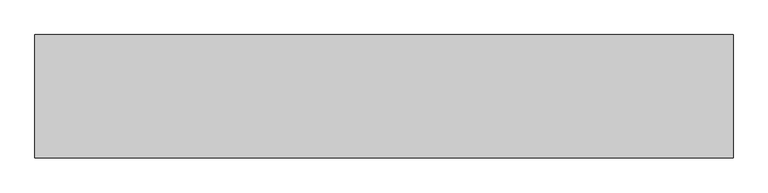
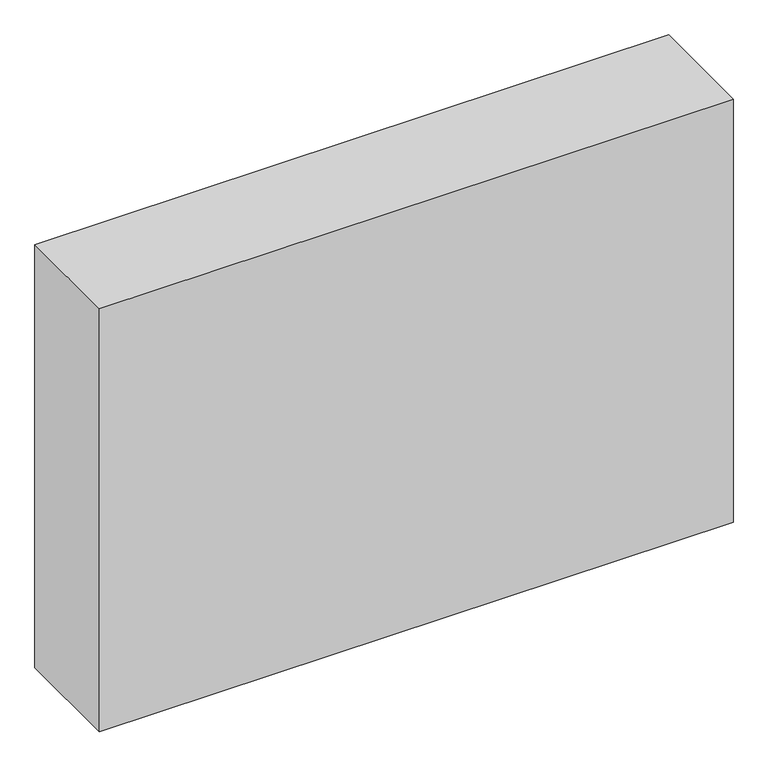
"""IFC4 building model written with IfcOpenShell, lengths in millimetres: furniture geometry, Fu_шкаф 1-с : Шкаф 1-створчатый."""

import ifcopenshell
import ifcopenshell.guid

model = None  # the IFC model being written
_history = None  # IfcOwnerHistory: only IFC2X3 demands one
_inside = {}  # id of a spatial element -> (the spatial element, [elements in it])
_under = {}  # id of a project, library or spatial element -> (it, [spatial elements below it])
_declared = {}  # id of a project -> (the project, [libraries it declares])
_typed = {}  # id of a type object -> (the type object, [elements of that type])
_made_of = {}  # id of a material, layer set ... -> (it, [elements and type objects made of it])


def new_model(schema):
    """Start an empty IFC model of exactly this schema.

    Asked for "IFC4X3", IfcOpenShell would pick the latest addendum, in which some entities
    have other attributes; the version numbers below select the first issue.
    IFC2X3 requires an IfcOwnerHistory on every rooted entity: one is made here for all.
    """
    global model, _history
    if schema == "IFC4X3":
        model = ifcopenshell.file(schema_version=(4, 3, 0, 0))
    else:
        model = ifcopenshell.file(schema=schema)
    _inside.clear()
    _under.clear()
    _declared.clear()
    _typed.clear()
    _made_of.clear()
    _history = None
    if model.schema == "IFC2X3":
        org = make("IfcOrganization", Name="unknown")
        user = make(
            "IfcPersonAndOrganization",
            ThePerson=make("IfcPerson", FamilyName="unknown"),
            TheOrganization=org,
        )
        app = make(
            "IfcApplication",
            ApplicationDeveloper=org,
            Version="unknown",
            ApplicationFullName="unknown",
            ApplicationIdentifier="unknown",
        )
        _history = make(
            "IfcOwnerHistory",
            OwningUser=user,
            OwningApplication=app,
            ChangeAction="ADDED",
            CreationDate=0,
        )
    return model


def make(cls, **values):
    """One entity of the class cls with the attributes given. An attribute that is None is left unset."""
    return model.create_entity(
        cls, **{name: value for name, value in values.items() if value is not None}
    )


def rooted(cls, **values):
    """An entity with a GlobalId (a new one), such as an element, a storey or a relation."""
    return make(cls, GlobalId=ifcopenshell.guid.new(), OwnerHistory=_history, **values)


def si_unit(unit_type, name, prefix=None):
    """IfcSIUnit, for example si_unit("LENGTHUNIT", "METRE", prefix="MILLI")."""
    return make("IfcSIUnit", UnitType=unit_type, Prefix=prefix, Name=name)


def assignment(units):
    """IfcUnitAssignment: the units of a project."""
    return None if units is None else make("IfcUnitAssignment", Units=units)


def point(xyz):
    """IfcCartesianPoint."""
    return None if xyz is None else make("IfcCartesianPoint", Coordinates=xyz)


def direction(xyz):
    """IfcDirection."""
    return None if xyz is None else make("IfcDirection", DirectionRatios=xyz)


def frame(location, z_axis=None, x_axis=None):
    """IfcAxis2Placement3D, a coordinate frame: its origin and axes. An axis left out is left unset."""
    return make(
        "IfcAxis2Placement3D",
        Location=point(location),
        Axis=direction(z_axis),
        RefDirection=direction(x_axis),
    )


def origin():
    """The frame at (0, 0, 0) with its axes left unset."""
    return frame((0.0, 0.0, 0.0))


def origin_with_axes():
    """The frame at (0, 0, 0) with the z axis (0, 0, 1) and the x axis (1, 0, 0) written out."""
    return frame((0.0, 0.0, 0.0), z_axis=(0.0, 0.0, 1.0), x_axis=(1.0, 0.0, 0.0))


def place(relative_to, where):
    """IfcLocalPlacement: puts the frame where relative to a parent placement (None: the world)."""
    return make(
        "IfcLocalPlacement", PlacementRelTo=relative_to, RelativePlacement=where
    )


def context(
    kind, dimensions, precision=None, world=None, true_north=None, identifier=None
):
    """IfcGeometricRepresentationContext, for example the 3D "Model" context."""
    return make(
        "IfcGeometricRepresentationContext",
        ContextIdentifier=identifier,
        ContextType=kind,
        CoordinateSpaceDimension=dimensions,
        Precision=precision,
        WorldCoordinateSystem=world,
        TrueNorth=true_north,
    )


def project(units=None, contexts=None):
    """IfcProject with its units and contexts."""
    return rooted(
        "IfcProject",
        Name="project",
        RepresentationContexts=contexts,
        UnitsInContext=assignment(units),
    )


def spatial(cls, under=None, at=None, **own):
    """A site, building, storey or space (cls), placed at a placement, below another one or the project."""
    s = rooted(cls, ObjectPlacement=at, **own)
    if under is not None:
        _under.setdefault(under.id(), (under, []))[1].append(s)
    return s


def polyline(points):
    """IfcPolyline through the points."""
    return make("IfcPolyline", Points=[point(p) for p in points])


def outline(outer, holes=None, kind="AREA"):
    """IfcArbitraryClosedProfileDef: a profile drawn as a closed curve; with holes, ...WithVoids."""
    if holes is None:
        return make("IfcArbitraryClosedProfileDef", ProfileType=kind, OuterCurve=outer)
    return make(
        "IfcArbitraryProfileDefWithVoids",
        ProfileType=kind,
        OuterCurve=outer,
        InnerCurves=holes,
    )


def extrude(swept, where, along, depth):
    """IfcExtrudedAreaSolid: the profile swept, set in the frame where, extruded along a direction by depth."""
    return make(
        "IfcExtrudedAreaSolid",
        SweptArea=swept,
        Position=where,
        ExtrudedDirection=direction(along),
        Depth=depth,
    )


def shape(context_of_items, identifier, shape_type, items):
    """IfcShapeRepresentation: the items that make up one representation, for example the "Body"."""
    return make(
        "IfcShapeRepresentation",
        ContextOfItems=context_of_items,
        RepresentationIdentifier=identifier,
        RepresentationType=shape_type,
        Items=items,
    )


def source(mapping_origin, context_of_items, identifier, shape_type, items):
    """IfcRepresentationMap: a shape defined once, which mapped items show again and again."""
    return make(
        "IfcRepresentationMap",
        MappingOrigin=mapping_origin,
        MappedRepresentation=shape(context_of_items, identifier, shape_type, items),
    )


def transform(
    local_origin,
    x_axis=None,
    y_axis=None,
    z_axis=None,
    scale=None,
    scale2=None,
    scale3=None,
    uniform=True,
):
    """IfcCartesianTransformationOperator3D, or its non-uniform kind. x_axis, y_axis, z_axis: its Axis1, 2, 3."""
    if uniform:
        return make(
            "IfcCartesianTransformationOperator3D",
            Axis1=direction(x_axis),
            Axis2=direction(y_axis),
            LocalOrigin=point(local_origin),
            Scale=scale,
            Axis3=direction(z_axis),
        )
    return make(
        "IfcCartesianTransformationOperator3DnonUniform",
        Axis1=direction(x_axis),
        Axis2=direction(y_axis),
        LocalOrigin=point(local_origin),
        Scale=scale,
        Axis3=direction(z_axis),
        Scale2=scale2,
        Scale3=scale3,
    )


def mapped(mapping_source, mapping_target):
    """IfcMappedItem: shows the shape of a source again, moved by a transform."""
    return make(
        "IfcMappedItem", MappingSource=mapping_source, MappingTarget=mapping_target
    )


def made_of(thing, what):
    """Note that an element or type object is made of a material, layer set ...; save() writes the relation."""
    if what is not None:
        _made_of.setdefault(what.id(), (what, []))[1].append(thing)
    return thing


def element(
    cls,
    number,
    at=None,
    inside=None,
    cuts=None,
    type_object=None,
    material=None,
    context=None,
    identifier="Body",
    shape_type=None,
    held_by="IfcProductDefinitionShape",
    body=None,
    shapes=None,
    **own,
):
    """One element of the class cls, such as IfcWall. Its Tag is "e" and its number.

    at: its placement. inside: the storey or other place that contains it. cuts: it is an
    opening in that element (IfcRelVoidsElement). A single representation is given by context,
    identifier, shape_type and body (its items); several are given by shapes. held_by: the class
    of the entity that holds the representations. save() writes the other relations.
    """
    e = rooted(cls, Tag="e%d" % number, ObjectPlacement=at, **own)
    if body is not None:
        shapes = [shape(context, identifier, shape_type, body)]
    if shapes is not None:
        e.Representation = make(held_by, Representations=shapes)
    if inside is not None:
        _inside.setdefault(inside.id(), (inside, []))[1].append(e)
    if cuts is not None:
        rooted(
            "IfcRelVoidsElement", RelatingBuildingElement=cuts, RelatedOpeningElement=e
        )
    if type_object is not None:
        _typed.setdefault(type_object.id(), (type_object, []))[1].append(e)
    return made_of(e, material)


def aggregate(whole, parts):
    """IfcRelAggregates: a whole, such as a stair, and the parts it consists of."""
    return rooted("IfcRelAggregates", RelatingObject=whole, RelatedObjects=parts)


def save(model, path):
    """Write the relations noted so far, then the file.

    IfcRelAggregates (storeys below a building ...), IfcRelContainedInSpatialStructure (elements
    in a storey), IfcRelDefinesByType, IfcRelAssociatesMaterial and IfcRelDeclares: one each for
    every whole, place, type object, material and project.
    """
    for whole, parts in _under.values():
        aggregate(whole, parts)
    for where, things in _inside.values():
        rooted(
            "IfcRelContainedInSpatialStructure",
            RelatedElements=things,
            RelatingStructure=where,
        )
    for kind, things in _typed.values():
        rooted("IfcRelDefinesByType", RelatedObjects=things, RelatingType=kind)
    for what, things in _made_of.values():
        rooted("IfcRelAssociatesMaterial", RelatedObjects=things, RelatingMaterial=what)
    for by, libraries in _declared.values():
        rooted("IfcRelDeclares", RelatingContext=by, RelatedDefinitions=libraries)
    model.write(path)


def furniture_eab48572(model_context):
    return source(origin(), model_context, "Body", "SweptSolid", [
        extrude(outline(polyline([(1700.0, 0.0), (0.0, 0.0), (0.0, 300.0), (1700.0, 300.0), (1700.0, 0.0)])), origin_with_axes(), (0.0, 0.0, 1.0), 1200.0),
    ])


if __name__ == "__main__":
    model = new_model("IFC4")
    model_context = context("Model", 3, world=origin())
    ifc_project = project(units=[si_unit("LENGTHUNIT", "METRE", prefix="MILLI")], contexts=[model_context])
    site = spatial("IfcSite", under=ifc_project)
    building = spatial("IfcBuilding", under=site)
    placement = place(None, origin())
    furniture_shape = furniture_eab48572(model_context)
    element("IfcFurniture", 1, ObjectType="Fu_шкаф 1-с : Шкаф 1-створчатый", at=placement, inside=building, context=model_context, shape_type="MappedRepresentation", body=[
        mapped(furniture_shape, transform((0.0, 0.0, 0.0), x_axis=(1.0, 0.0, 0.0), y_axis=(0.0, 1.0, 0.0), z_axis=(0.0, 0.0, 1.0))),
    ])
    save(model, "model.ifc")
